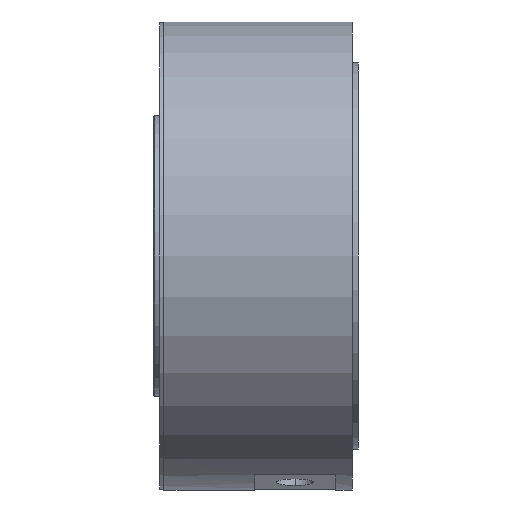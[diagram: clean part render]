
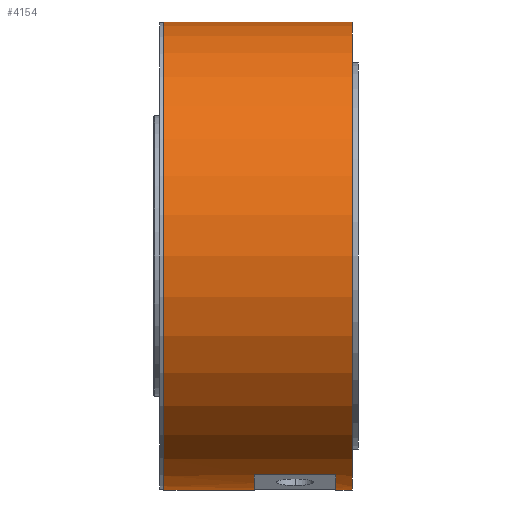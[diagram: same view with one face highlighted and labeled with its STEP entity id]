
A CAD part, left-side view. The second image highlights one B-rep face of the part: STEP entity #4154.
In plain terms, the highlighted cylindrical face has radius 115 mm (diameter 230 mm), a partial arc.
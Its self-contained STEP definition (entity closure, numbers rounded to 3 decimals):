
#1085=CARTESIAN_POINT('',(0.,-47.25,0.));
#1086=DIRECTION('',(0.,-1.,0.));
#1087=DIRECTION('',(0.,0.,1.));
#1088=AXIS2_PLACEMENT_3D('',#1085,#1086,#1087);
#1185=DIRECTION('',(0.,-1.,0.));
#1186=VECTOR('',#1185,40.);
#1187=CARTESIAN_POINT('',(-40.652,0.75,-107.575));
#1188=LINE('',#1187,#1186);
#1189=DIRECTION('',(0.,-1.,0.));
#1190=VECTOR('',#1189,8.);
#1191=CARTESIAN_POINT('',(0.,-39.25,-115.));
#1192=LINE('',#1191,#1190);
#1197=CARTESIAN_POINT('',(0.,-39.25,0.));
#1198=DIRECTION('',(0.,1.,0.));
#1199=DIRECTION('',(0.,0.,-1.));
#1200=AXIS2_PLACEMENT_3D('',#1197,#1198,#1199);
#1327=DIRECTION('',(0.,1.,0.));
#1328=VECTOR('',#1327,92.5);
#1329=CARTESIAN_POINT('',(0.,-47.25,115.));
#1330=LINE('',#1329,#1328);
#1331=DIRECTION('',(0.,1.,0.));
#1332=VECTOR('',#1331,44.5);
#1333=CARTESIAN_POINT('',(0.,0.75,-115.));
#1334=LINE('',#1333,#1332);
#1339=CARTESIAN_POINT('',(0.,45.25,0.));
#1340=DIRECTION('',(0.,1.,0.));
#1341=DIRECTION('',(0.,0.,-1.));
#1342=AXIS2_PLACEMENT_3D('',#1339,#1340,#1341);
#1624=CARTESIAN_POINT('',(0.,0.75,0.));
#1625=DIRECTION('',(0.,-1.,0.));
#1626=DIRECTION('',(-0.353,0.,-0.935));
#1627=AXIS2_PLACEMENT_3D('',#1624,#1625,#1626);
#2634=CARTESIAN_POINT('',(0.,-47.25,-115.));
#2635=CARTESIAN_POINT('',(0.,-47.25,115.));
#2636=VERTEX_POINT('',#2634);
#2637=VERTEX_POINT('',#2635);
#2638=CARTESIAN_POINT('',(0.,-39.25,-115.));
#2639=VERTEX_POINT('',#2638);
#2772=CARTESIAN_POINT('',(-40.652,0.75,
-107.575));
#2773=CARTESIAN_POINT('',(0.,0.75,-115.));
#2774=VERTEX_POINT('',#2772);
#2775=VERTEX_POINT('',#2773);
#2776=CARTESIAN_POINT('',(0.,45.25,-115.));
#2777=CARTESIAN_POINT('',(0.,45.25,115.));
#2778=VERTEX_POINT('',#2776);
#2779=VERTEX_POINT('',#2777);
#2844=CARTESIAN_POINT('',(-40.652,-39.25,-107.575));
#2846=VERTEX_POINT('',#2844);
#4132=CARTESIAN_POINT('',(0.,-50.25,0.));
#4133=DIRECTION('',(0.,1.,0.));
#4134=DIRECTION('',(0.,0.,1.));
#4135=AXIS2_PLACEMENT_3D('',#4132,#4133,#4134);
#4136=CYLINDRICAL_SURFACE('',#4135,115.);
#4138=ORIENTED_EDGE('',*,*,#4137,.T.);
#4140=ORIENTED_EDGE('',*,*,#4139,.F.);
#4142=ORIENTED_EDGE('',*,*,#4141,.T.);
#4144=ORIENTED_EDGE('',*,*,#4143,.T.);
#4146=ORIENTED_EDGE('',*,*,#4145,.T.);
#4148=ORIENTED_EDGE('',*,*,#4147,.F.);
#4149=ORIENTED_EDGE('',*,*,#4072,.T.);
#4151=ORIENTED_EDGE('',*,*,#4150,.F.);
#4152=EDGE_LOOP('',(#4138,#4140,#4142,#4144,#4146,#4148,#4149,#4151));
#4153=FACE_OUTER_BOUND('',#4152,.F.);
#4154=ADVANCED_FACE('',(#4153),#4136,.T.);
#1089=CIRCLE('',#1088,115.);
#1201=CIRCLE('',#1200,115.);
#1343=CIRCLE('',#1342,115.);
#1628=CIRCLE('',#1627,115.);
#4072=EDGE_CURVE('',#2637,#2636,#1089,.T.);
#4137=EDGE_CURVE('',#2639,#2846,#1201,.T.);
#4139=EDGE_CURVE('',#2774,#2846,#1188,.T.);
#4141=EDGE_CURVE('',#2774,#2775,#1628,.T.);
#4143=EDGE_CURVE('',#2775,#2778,#1334,.T.);
#4145=EDGE_CURVE('',#2778,#2779,#1343,.T.);
#4147=EDGE_CURVE('',#2637,#2779,#1330,.T.);
#4150=EDGE_CURVE('',#2639,#2636,#1192,.T.);
